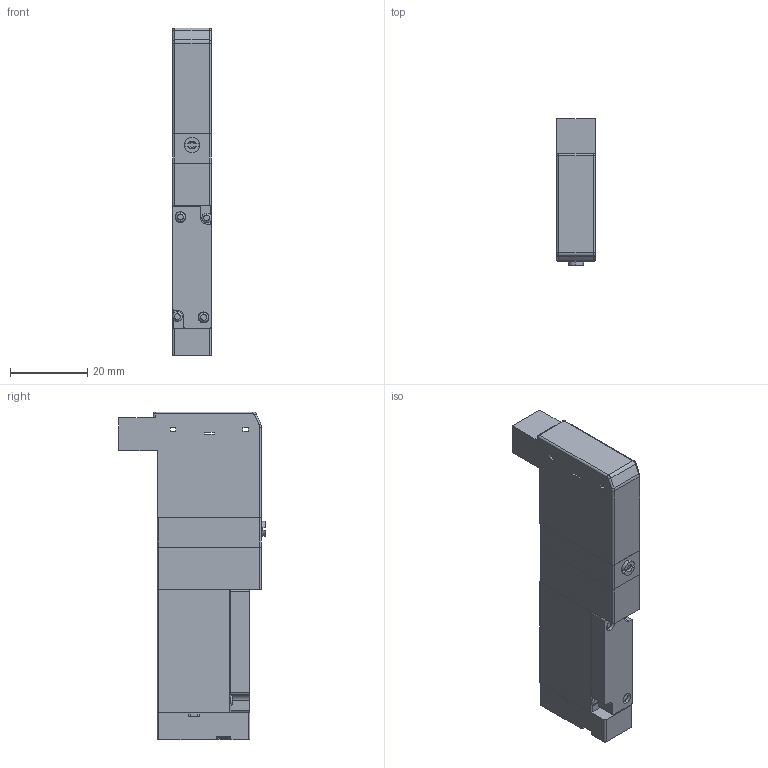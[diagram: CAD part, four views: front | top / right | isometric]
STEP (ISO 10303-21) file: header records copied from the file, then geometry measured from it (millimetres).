
FILE_DESCRIPTION( (''), '2;1');
FILE_NAME ('CVICAD02.13484.F10T0-A1_5587.stp','2020-09-01T14:09:11',(''),(''),'spGate 12.6.6','','');
FILE_SCHEMA (('AUTOMOTIVE_DESIGN'));
Length unit declared in the file: millimetre
Products named in the file (7): Assembly; F10T_Body; F10_Adptor; F_3PortBody; F10_Cap; F_Connector-L; F10_A1
Assembly tree (6 placements, depth 2):
  Assembly
    F10T_Body
    F10_Adptor
    F_3PortBody
    F10_Cap
    F_Connector-L
    F10_A1
Bounding box: 10.2 x 38 x 85 mm (x, y, z)
Volume: 22249.2 mm3; surface area: 9999 mm2
Topology: 6 solids, 6 shells, 177 faces, 436 edges, 282 vertices
Faces by surface type: plane 90, cylinder 63, bspline 22, sphere 2
Entity records: 9282 total; most frequent: CARTESIAN_POINT 1362, DIRECTION 901, ORIENTED_EDGE 868, COLOUR_RGB 617, PRESENTATION_STYLE_ASSIGNMENT 617, STYLED_ITEM 617, EDGE_CURVE 434, DRAUGHTING_PRE_DEFINED_CURVE_FONT 434
